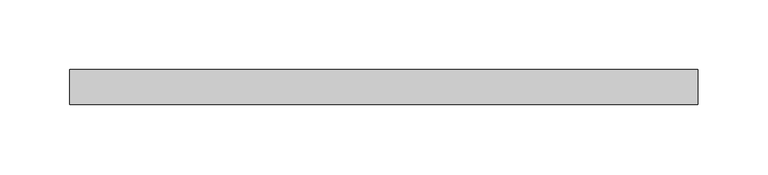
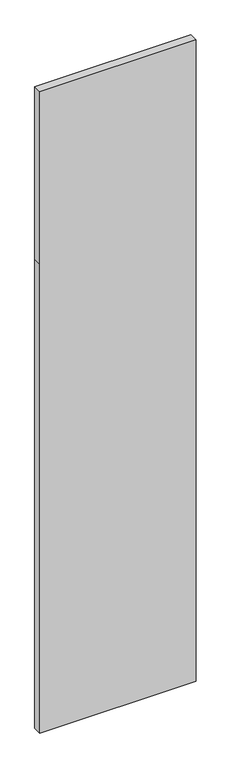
"""IFC4 building model written with IfcOpenShell, lengths in millimetres: plate geometry, Системная панель : ADSK_Cтеклопакет_25 мм."""

from ifc_helpers import new_model, si_unit, frame, origin, place, context, project, spatial, polyline, outline, extrude, source, transform, mapped, element, save


def plate_d651b3ad(model_context):
    return source(origin(), model_context, "Body", "SweptSolid", [
        extrude(outline(polyline([(0.0, -225.0), (0.0, 225.0), (1425.0, 225.0), (1950.0, 225.0), (1950.0, -225.0), (1425.0, -225.0), (0.0, -225.0)])), frame((0.0, -12.5, 0.0), z_axis=(0.0, 1.0, 0.0), x_axis=(0.0, 0.0, 1.0)), (0.0, 0.0, 1.0), 25.0),
    ])


if __name__ == "__main__":
    model = new_model("IFC4")
    model_context = context("Model", 3, world=origin())
    ifc_project = project(units=[si_unit("LENGTHUNIT", "METRE", prefix="MILLI")], contexts=[model_context])
    site = spatial("IfcSite", under=ifc_project)
    building = spatial("IfcBuilding", under=site)
    placement = place(None, origin())
    plate_shape = plate_d651b3ad(model_context)
    element("IfcPlate", 1, ObjectType="Системная панель : ADSK_Cтеклопакет_25 мм", at=placement, inside=building, context=model_context, shape_type="MappedRepresentation", body=[
        mapped(plate_shape, transform((0.0, 0.0, 0.0), x_axis=(1.0, 0.0, 0.0), y_axis=(0.0, 1.0, 0.0), z_axis=(0.0, 0.0, 1.0))),
    ])
    save(model, "model.ifc")
